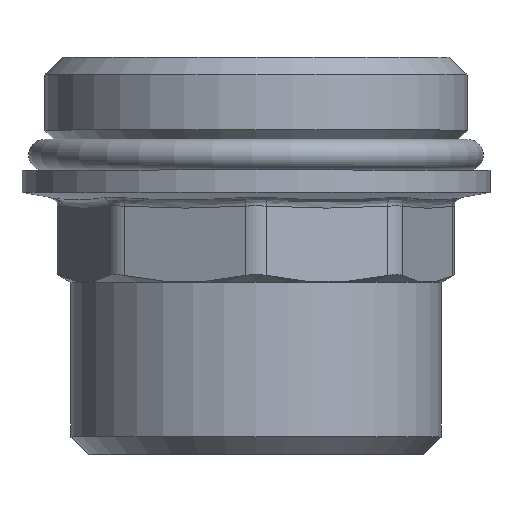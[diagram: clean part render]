
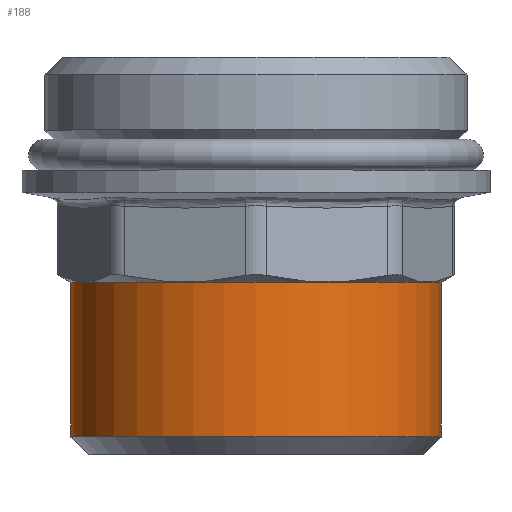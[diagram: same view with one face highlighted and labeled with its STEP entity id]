
A CAD part, top view. The second image highlights one B-rep face of the part: STEP entity #188.
In plain terms, the highlighted cylindrical face has radius 20.955 mm (diameter 41.91 mm), a full revolution.
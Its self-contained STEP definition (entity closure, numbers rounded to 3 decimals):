
#188=ADVANCED_FACE('',(#364,#366),#368,.T.);
#364=FACE_OUTER_BOUND('',#365,.T.);
#365=EDGE_LOOP('',(#1541));
#366=FACE_OUTER_BOUND('',#367,.T.);
#367=EDGE_LOOP('',(#1542));
#368=CYLINDRICAL_SURFACE('',#369,20.955);
#369=AXIS2_PLACEMENT_3D('',#370,#371,#372);
#370=CARTESIAN_POINT('',(0.,-10.2,0.));
#371=DIRECTION('',(0.,-1.,0.));
#372=DIRECTION('',(1.,0.,0.));
#1541=ORIENTED_EDGE('',*,*,#1737,.T.);
#1542=ORIENTED_EDGE('',*,*,#1735,.F.);
#1735=EDGE_CURVE('',#1846,#1846,#1847,.T.);
#1737=EDGE_CURVE('',#1850,#1850,#1851,.T.);
#1846=VERTEX_POINT('',#2046);
#1847=CIRCLE('',#2047,20.955);
#1850=VERTEX_POINT('',#2056);
#1851=CIRCLE('',#2057,20.955);
#2046=CARTESIAN_POINT('',(20.955,-27.7,0.));
#2047=AXIS2_PLACEMENT_3D('',#2048,#2049,#2050);
#2048=CARTESIAN_POINT('',(0.,-27.7,0.));
#2049=DIRECTION('',(0.,-1.,0.));
#2050=DIRECTION('',(1.,0.,0.));
#2056=CARTESIAN_POINT('',(20.955,-10.2,0.));
#2057=AXIS2_PLACEMENT_3D('',#2058,#2059,#2060);
#2058=CARTESIAN_POINT('',(0.,-10.2,0.));
#2059=DIRECTION('',(0.,-1.,0.));
#2060=DIRECTION('',(1.,0.,0.));
